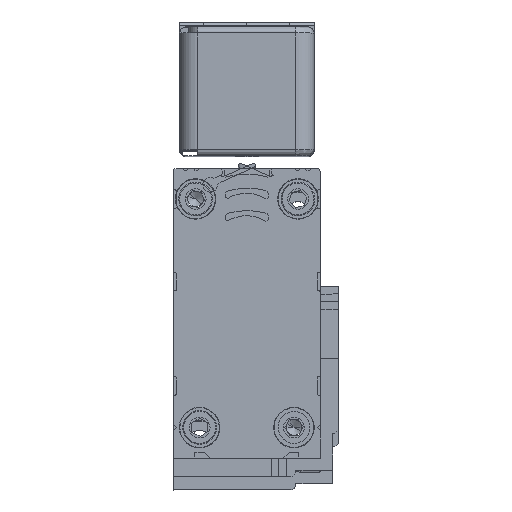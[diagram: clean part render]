
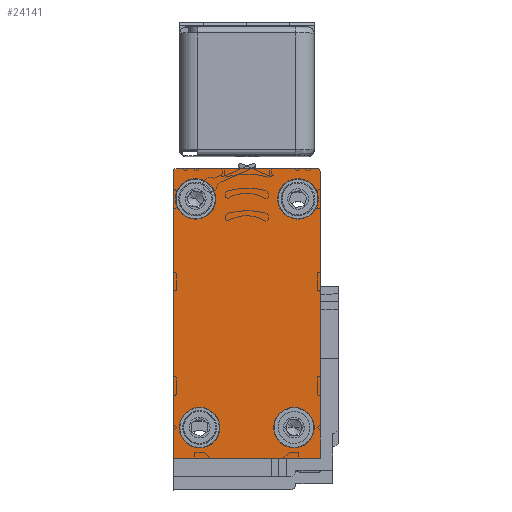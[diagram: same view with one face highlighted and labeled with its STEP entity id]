
A CAD part, top view. The second image highlights one B-rep face of the part: STEP entity #24141.
In plain terms, the highlighted planar face has unit normal (0, 0, 1).
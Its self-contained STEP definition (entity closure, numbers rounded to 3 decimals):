
#575 = EDGE_LOOP ( 'NONE', ( #5261, #13397 ) ) ;
#599 = DIRECTION ( 'NONE',  ( 0., 0., -1. ) ) ;
#629 = AXIS2_PLACEMENT_3D ( 'NONE', #14237, #599, #16507 ) ;
#810 = DIRECTION ( 'NONE',  ( 0., 0., -1. ) ) ;
#889 = EDGE_CURVE ( 'NONE', #19527, #16894, #7298, .T. ) ;
#925 = EDGE_CURVE ( 'NONE', #1692, #13375, #14391, .T. ) ;
#943 = CARTESIAN_POINT ( 'NONE',  ( -18.014, -20.888, 3185. ) ) ;
#1143 = DIRECTION ( 'NONE',  ( 0., 1., 0. ) ) ;
#1236 = DIRECTION ( 'NONE',  ( 0., 0., -1. ) ) ;
#1627 = EDGE_CURVE ( 'NONE', #26528, #16894, #27158, .T. ) ;
#1692 = VERTEX_POINT ( 'NONE', #18615 ) ;
#1812 = DIRECTION ( 'NONE',  ( 0., 0., -1. ) ) ;
#2004 = EDGE_LOOP ( 'NONE', ( #25412, #15059, #7689, #21857, #7311, #20454, #11624 ) ) ;
#2197 = VERTEX_POINT ( 'NONE', #17604 ) ;
#3270 = CARTESIAN_POINT ( 'NONE',  ( -10.412, -15.887, 3185. ) ) ;
#3367 = CIRCLE ( 'NONE', #5044, 3.302 ) ;
#3432 = AXIS2_PLACEMENT_3D ( 'NONE', #27991, #14819, #1143 ) ;
#3552 = CARTESIAN_POINT ( 'NONE',  ( 2.335, 21.401, 3185. ) ) ;
#3600 = EDGE_CURVE ( 'NONE', #28560, #26660, #25656, .T. ) ;
#4325 = ORIENTED_EDGE ( 'NONE', *, *, #26594, .T. ) ;
#4540 = DIRECTION ( 'NONE',  ( 0., 0., -1. ) ) ;
#4586 = DIRECTION ( 'NONE',  ( 0., 1., 0. ) ) ;
#4727 = AXIS2_PLACEMENT_3D ( 'NONE', #18146, #4540, #20377 ) ;
#4896 = EDGE_CURVE ( 'NONE', #16590, #19527, #19183, .T. ) ;
#5044 = AXIS2_PLACEMENT_3D ( 'NONE', #19127, #5584, #21351 ) ;
#5261 = ORIENTED_EDGE ( 'NONE', *, *, #28912, .T. ) ;
#5541 = DIRECTION ( 'NONE',  ( 1., 0., 0. ) ) ;
#5584 = DIRECTION ( 'NONE',  ( 0., 0., -1. ) ) ;
#5679 = FACE_BOUND ( 'NONE', #13390, .T. ) ;
#5849 = DIRECTION ( 'NONE',  ( -1., 0., 0. ) ) ;
#6166 = AXIS2_PLACEMENT_3D ( 'NONE', #14458, #810, #16722 ) ;
#6742 = CARTESIAN_POINT ( 'NONE',  ( -18.014, -20.888, 3185. ) ) ;
#7045 = DIRECTION ( 'NONE',  ( 0., 0., -1. ) ) ;
#7226 = CARTESIAN_POINT ( 'NONE',  ( 5.984, 7.11, 3185. ) ) ;
#7289 = CARTESIAN_POINT ( 'NONE',  ( -11.063, 21.401, 3185. ) ) ;
#7298 = LINE ( 'NONE', #11239, #19292 ) ;
#7311 = ORIENTED_EDGE ( 'NONE', *, *, #1627, .F. ) ;
#7324 = CARTESIAN_POINT ( 'NONE',  ( -1.626, -15.887, 3185. ) ) ;
#7574 = EDGE_LOOP ( 'NONE', ( #22498, #26241 ) ) ;
#7689 = ORIENTED_EDGE ( 'NONE', *, *, #4896, .T. ) ;
#7802 = DIRECTION ( 'NONE',  ( 0., -1., 0. ) ) ;
#7807 = VERTEX_POINT ( 'NONE', #13786 ) ;
#8493 = AXIS2_PLACEMENT_3D ( 'NONE', #3552, #19389, #5849 ) ;
#8506 = LINE ( 'NONE', #16200, #25583 ) ;
#9054 = DIRECTION ( 'NONE',  ( -1., 0., 0. ) ) ;
#9459 = CARTESIAN_POINT ( 'NONE',  ( -17.514, 25.871, 3185. ) ) ;
#9608 = ORIENTED_EDGE ( 'NONE', *, *, #16955, .T. ) ;
#11048 = CARTESIAN_POINT ( 'NONE',  ( 5.485, 26.371, 3185. ) ) ;
#11239 = CARTESIAN_POINT ( 'NONE',  ( 5.485, 26.371, 3185. ) ) ;
#11350 = VERTEX_POINT ( 'NONE', #24419 ) ;
#11421 = VECTOR ( 'NONE', #4586, 1000. ) ;
#11465 = EDGE_CURVE ( 'NONE', #11350, #20715, #25495, .T. ) ;
#11624 = ORIENTED_EDGE ( 'NONE', *, *, #27367, .T. ) ;
#11732 = DIRECTION ( 'NONE',  ( 0., 1., 0. ) ) ;
#12138 = LINE ( 'NONE', #20421, #11421 ) ;
#12437 = FACE_BOUND ( 'NONE', #7574, .T. ) ;
#12504 = CARTESIAN_POINT ( 'NONE',  ( -17.514, 26.371, 3185. ) ) ;
#13050 = CARTESIAN_POINT ( 'NONE',  ( -18.014, -20.888, 3185. ) ) ;
#13375 = VERTEX_POINT ( 'NONE', #18863 ) ;
#13390 = EDGE_LOOP ( 'NONE', ( #9608, #26774 ) ) ;
#13397 = ORIENTED_EDGE ( 'NONE', *, *, #11465, .T. ) ;
#13786 = CARTESIAN_POINT ( 'NONE',  ( -17.017, -15.887, 3185. ) ) ;
#14015 = AXIS2_PLACEMENT_3D ( 'NONE', #9459, #25026, #11732 ) ;
#14237 = CARTESIAN_POINT ( 'NONE',  ( 1.676, -15.887, 3185. ) ) ;
#14391 = CIRCLE ( 'NONE', #23666, 3.302 ) ;
#14458 = CARTESIAN_POINT ( 'NONE',  ( -14.365, 21.401, 3185. ) ) ;
#14819 = DIRECTION ( 'NONE',  ( 0., 0., 1. ) ) ;
#14927 = CARTESIAN_POINT ( 'NONE',  ( 1.676, -15.887, 3185. ) ) ;
#15059 = ORIENTED_EDGE ( 'NONE', *, *, #25382, .T. ) ;
#15461 = CARTESIAN_POINT ( 'NONE',  ( -13.714, -15.887, 3185. ) ) ;
#15798 = DIRECTION ( 'NONE',  ( -1., 0., 0. ) ) ;
#15840 = EDGE_CURVE ( 'NONE', #26660, #28560, #20687, .T. ) ;
#15928 = EDGE_CURVE ( 'NONE', #26528, #22599, #23070, .T. ) ;
#16200 = CARTESIAN_POINT ( 'NONE',  ( 5.984, 7.11, 3185. ) ) ;
#16243 = AXIS2_PLACEMENT_3D ( 'NONE', #6742, #22443, #9054 ) ;
#16507 = DIRECTION ( 'NONE',  ( -1., 0., 0. ) ) ;
#16590 = VERTEX_POINT ( 'NONE', #24691 ) ;
#16722 = DIRECTION ( 'NONE',  ( -1., 0., 0. ) ) ;
#16894 = VERTEX_POINT ( 'NONE', #12504 ) ;
#16955 = EDGE_CURVE ( 'NONE', #13375, #1692, #20324, .T. ) ;
#17053 = FACE_OUTER_BOUND ( 'NONE', #2004, .T. ) ;
#17178 = AXIS2_PLACEMENT_3D ( 'NONE', #15461, #1812, #17733 ) ;
#17181 = DIRECTION ( 'NONE',  ( -1., 0., 0. ) ) ;
#17604 = CARTESIAN_POINT ( 'NONE',  ( 5.984, -20.888, 3185. ) ) ;
#17733 = DIRECTION ( 'NONE',  ( -1., 0., 0. ) ) ;
#18108 = CIRCLE ( 'NONE', #17178, 3.302 ) ;
#18146 = CARTESIAN_POINT ( 'NONE',  ( -14.365, 21.401, 3185. ) ) ;
#18473 = DIRECTION ( 'NONE',  ( 0., 1., 0. ) ) ;
#18615 = CARTESIAN_POINT ( 'NONE',  ( 5.637, 21.401, 3185. ) ) ;
#18678 = EDGE_LOOP ( 'NONE', ( #24243, #4325 ) ) ;
#18863 = CARTESIAN_POINT ( 'NONE',  ( -0.967, 21.401, 3185. ) ) ;
#19127 = CARTESIAN_POINT ( 'NONE',  ( -13.714, -15.887, 3185. ) ) ;
#19183 = CIRCLE ( 'NONE', #3432, 0.5 ) ;
#19292 = VECTOR ( 'NONE', #15798, 1000. ) ;
#19389 = DIRECTION ( 'NONE',  ( 0., 0., -1. ) ) ;
#19527 = VERTEX_POINT ( 'NONE', #11048 ) ;
#20324 = CIRCLE ( 'NONE', #8493, 3.302 ) ;
#20377 = DIRECTION ( 'NONE',  ( -1., 0., 0. ) ) ;
#20421 = CARTESIAN_POINT ( 'NONE',  ( 5.984, -20.888, 3185. ) ) ;
#20454 = ORIENTED_EDGE ( 'NONE', *, *, #15928, .T. ) ;
#20563 = CARTESIAN_POINT ( 'NONE',  ( 2.335, 21.401, 3185. ) ) ;
#20687 = CIRCLE ( 'NONE', #6166, 3.302 ) ;
#20715 = VERTEX_POINT ( 'NONE', #7324 ) ;
#21080 = CARTESIAN_POINT ( 'NONE',  ( -18.014, 25.871, 3185. ) ) ;
#21320 = LINE ( 'NONE', #943, #26469 ) ;
#21351 = DIRECTION ( 'NONE',  ( -1., 0., 0. ) ) ;
#21795 = VERTEX_POINT ( 'NONE', #3270 ) ;
#21857 = ORIENTED_EDGE ( 'NONE', *, *, #889, .T. ) ;
#21913 = CIRCLE ( 'NONE', #24993, 3.302 ) ;
#22211 = VERTEX_POINT ( 'NONE', #7226 ) ;
#22350 = PLANE ( 'NONE',  #16243 ) ;
#22382 = VECTOR ( 'NONE', #7802, 1000. ) ;
#22443 = DIRECTION ( 'NONE',  ( 0., 0., 1. ) ) ;
#22498 = ORIENTED_EDGE ( 'NONE', *, *, #15840, .T. ) ;
#22599 = VERTEX_POINT ( 'NONE', #13050 ) ;
#22647 = EDGE_CURVE ( 'NONE', #7807, #21795, #18108, .T. ) ;
#22744 = DIRECTION ( 'NONE',  ( -1., 0., 0. ) ) ;
#22831 = EDGE_CURVE ( 'NONE', #2197, #22211, #12138, .T. ) ;
#22906 = FACE_BOUND ( 'NONE', #18678, .T. ) ;
#23070 = LINE ( 'NONE', #23468, #22382 ) ;
#23468 = CARTESIAN_POINT ( 'NONE',  ( -18.014, 25.871, 3185. ) ) ;
#23666 = AXIS2_PLACEMENT_3D ( 'NONE', #20563, #7045, #22744 ) ;
#24141 = ADVANCED_FACE ( 'NONE', ( #12437, #5679, #28739, #22906, #17053 ), #22350, .T. ) ;
#24243 = ORIENTED_EDGE ( 'NONE', *, *, #22647, .T. ) ;
#24419 = CARTESIAN_POINT ( 'NONE',  ( 4.978, -15.887, 3185. ) ) ;
#24691 = CARTESIAN_POINT ( 'NONE',  ( 5.984, 25.871, 3185. ) ) ;
#24993 = AXIS2_PLACEMENT_3D ( 'NONE', #14927, #1236, #17181 ) ;
#25026 = DIRECTION ( 'NONE',  ( 0., 0., -1. ) ) ;
#25382 = EDGE_CURVE ( 'NONE', #22211, #16590, #8506, .T. ) ;
#25412 = ORIENTED_EDGE ( 'NONE', *, *, #22831, .T. ) ;
#25495 = CIRCLE ( 'NONE', #629, 3.302 ) ;
#25583 = VECTOR ( 'NONE', #18473, 1000. ) ;
#25656 = CIRCLE ( 'NONE', #4727, 3.302 ) ;
#25833 = CARTESIAN_POINT ( 'NONE',  ( -17.667, 21.401, 3185. ) ) ;
#26241 = ORIENTED_EDGE ( 'NONE', *, *, #3600, .T. ) ;
#26469 = VECTOR ( 'NONE', #5541, 1000. ) ;
#26528 = VERTEX_POINT ( 'NONE', #21080 ) ;
#26594 = EDGE_CURVE ( 'NONE', #21795, #7807, #3367, .T. ) ;
#26660 = VERTEX_POINT ( 'NONE', #25833 ) ;
#26774 = ORIENTED_EDGE ( 'NONE', *, *, #925, .T. ) ;
#27158 = CIRCLE ( 'NONE', #14015, 0.5 ) ;
#27367 = EDGE_CURVE ( 'NONE', #22599, #2197, #21320, .T. ) ;
#27991 = CARTESIAN_POINT ( 'NONE',  ( 5.485, 25.871, 3185. ) ) ;
#28560 = VERTEX_POINT ( 'NONE', #7289 ) ;
#28739 = FACE_BOUND ( 'NONE', #575, .T. ) ;
#28912 = EDGE_CURVE ( 'NONE', #20715, #11350, #21913, .T. ) ;
